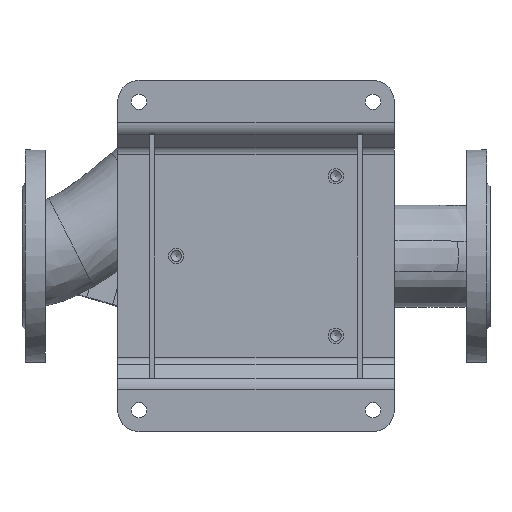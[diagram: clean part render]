
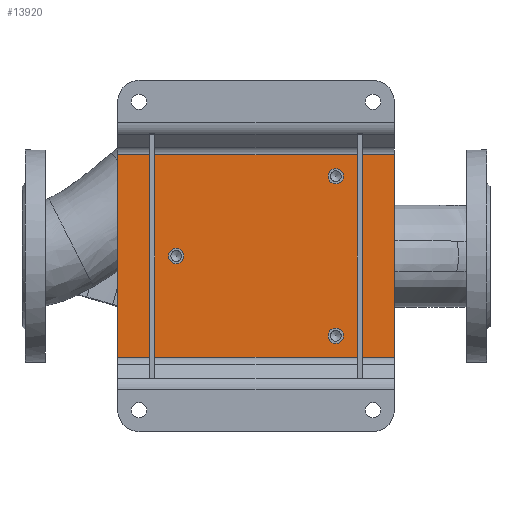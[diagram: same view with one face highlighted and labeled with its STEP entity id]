
A CAD part, top view. The second image highlights one B-rep face of the part: STEP entity #13920.
In plain terms, the highlighted planar face has unit normal (0, 0, 1) as drawn and (0, -1, 0) by its records, which use the part's own axes.
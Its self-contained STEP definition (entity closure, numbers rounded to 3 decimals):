
#533 = VECTOR ( 'NONE', #46732, 1000. ) ;
#747 = ORIENTED_EDGE ( 'NONE', *, *, #31177, .F. ) ;
#1305 = EDGE_CURVE ( 'NONE', #71816, #67862, #81312, .T. ) ;
#2043 = FACE_BOUND ( 'NONE', #24204, .T. ) ;
#2212 = EDGE_LOOP ( 'NONE', ( #41395 ) ) ;
#4946 = VERTEX_POINT ( 'NONE', #49571 ) ;
#8286 = FACE_BOUND ( 'NONE', #63512, .T. ) ;
#8395 = CARTESIAN_POINT ( 'NONE',  ( -75., -5., 75. ) ) ;
#10248 = EDGE_CURVE ( 'NONE', #12103, #12103, #61520, .T. ) ;
#11763 = CARTESIAN_POINT ( 'NONE',  ( -95., -5., -130. ) ) ;
#12103 = VERTEX_POINT ( 'NONE', #30489 ) ;
#13040 = VERTEX_POINT ( 'NONE', #19240 ) ;
#13560 = AXIS2_PLACEMENT_3D ( 'NONE', #52741, #78197, #16010 ) ;
#13920 = ADVANCED_FACE ( 'NONE', ( #52502, #2043, #8286, #15377 ), #34167, .T. ) ;
#15377 = FACE_OUTER_BOUND ( 'NONE', #67499, .T. ) ;
#16010 = DIRECTION ( 'NONE',  ( 0., 0., -1. ) ) ;
#19240 = CARTESIAN_POINT ( 'NONE',  ( -95., -5., 130. ) ) ;
#19986 = CARTESIAN_POINT ( 'NONE',  ( 95., -5., 130. ) ) ;
#21337 = DIRECTION ( 'NONE',  ( 0., 0., -1. ) ) ;
#21715 = ORIENTED_EDGE ( 'NONE', *, *, #56977, .F. ) ;
#24204 = EDGE_LOOP ( 'NONE', ( #34184 ) ) ;
#24412 = CARTESIAN_POINT ( 'NONE',  ( -95., -5., 130. ) ) ;
#26067 = CIRCLE ( 'NONE', #44765, 7.25 ) ;
#27506 = DIRECTION ( 'NONE',  ( 0., 0., -1. ) ) ;
#30186 = CARTESIAN_POINT ( 'NONE',  ( -95., -5., 130. ) ) ;
#30489 = CARTESIAN_POINT ( 'NONE',  ( 0., -5., -82.25 ) ) ;
#31177 = EDGE_CURVE ( 'NONE', #13040, #71816, #55623, .T. ) ;
#31369 = DIRECTION ( 'NONE',  ( -1., 0., 0. ) ) ;
#32468 = DIRECTION ( 'NONE',  ( 0., -1., 0. ) ) ;
#34167 = PLANE ( 'NONE',  #76090 ) ;
#34184 = ORIENTED_EDGE ( 'NONE', *, *, #10248, .F. ) ;
#34396 = EDGE_CURVE ( 'NONE', #38781, #38781, #26067, .T. ) ;
#38543 = ORIENTED_EDGE ( 'NONE', *, *, #67311, .F. ) ;
#38781 = VERTEX_POINT ( 'NONE', #52959 ) ;
#39165 = DIRECTION ( 'NONE',  ( 0., -1., 0. ) ) ;
#39502 = VECTOR ( 'NONE', #75869, 1000. ) ;
#39567 = CARTESIAN_POINT ( 'NONE',  ( 75., -5., 75. ) ) ;
#40578 = AXIS2_PLACEMENT_3D ( 'NONE', #8395, #76510, #21337 ) ;
#41395 = ORIENTED_EDGE ( 'NONE', *, *, #34396, .F. ) ;
#44183 = CARTESIAN_POINT ( 'NONE',  ( 95., -5., 130. ) ) ;
#44765 = AXIS2_PLACEMENT_3D ( 'NONE', #39567, #32468, #56677 ) ;
#46732 = DIRECTION ( 'NONE',  ( 1., 0., 0. ) ) ;
#47523 = CARTESIAN_POINT ( 'NONE',  ( 0., -5., 0. ) ) ;
#49571 = CARTESIAN_POINT ( 'NONE',  ( -75., -5., 67.75 ) ) ;
#49835 = DIRECTION ( 'NONE',  ( 0., 0., 1. ) ) ;
#52284 = CARTESIAN_POINT ( 'NONE',  ( 95., -5., -130. ) ) ;
#52334 = VERTEX_POINT ( 'NONE', #60411 ) ;
#52502 = FACE_BOUND ( 'NONE', #2212, .T. ) ;
#52741 = CARTESIAN_POINT ( 'NONE',  ( 0., -5., -75. ) ) ;
#52959 = CARTESIAN_POINT ( 'NONE',  ( 75., -5., 67.75 ) ) ;
#53572 = EDGE_CURVE ( 'NONE', #67862, #52334, #63048, .T. ) ;
#54092 = VECTOR ( 'NONE', #49835, 1000. ) ;
#55623 = LINE ( 'NONE', #30186, #533 ) ;
#56086 = LINE ( 'NONE', #24412, #54092 ) ;
#56677 = DIRECTION ( 'NONE',  ( 0., 0., -1. ) ) ;
#56977 = EDGE_CURVE ( 'NONE', #4946, #4946, #59201, .T. ) ;
#58988 = VECTOR ( 'NONE', #31369, 1000. ) ;
#59201 = CIRCLE ( 'NONE', #40578, 7.25 ) ;
#60411 = CARTESIAN_POINT ( 'NONE',  ( -95., -5., -130. ) ) ;
#61520 = CIRCLE ( 'NONE', #13560, 7.25 ) ;
#63005 = ORIENTED_EDGE ( 'NONE', *, *, #1305, .F. ) ;
#63048 = LINE ( 'NONE', #11763, #58988 ) ;
#63512 = EDGE_LOOP ( 'NONE', ( #21715 ) ) ;
#65933 = ORIENTED_EDGE ( 'NONE', *, *, #53572, .F. ) ;
#67311 = EDGE_CURVE ( 'NONE', #52334, #13040, #56086, .T. ) ;
#67499 = EDGE_LOOP ( 'NONE', ( #63005, #747, #38543, #65933 ) ) ;
#67862 = VERTEX_POINT ( 'NONE', #52284 ) ;
#71816 = VERTEX_POINT ( 'NONE', #19986 ) ;
#75869 = DIRECTION ( 'NONE',  ( 0., 0., -1. ) ) ;
#76090 = AXIS2_PLACEMENT_3D ( 'NONE', #47523, #39165, #27506 ) ;
#76510 = DIRECTION ( 'NONE',  ( 0., -1., 0. ) ) ;
#78197 = DIRECTION ( 'NONE',  ( 0., -1., 0. ) ) ;
#81312 = LINE ( 'NONE', #44183, #39502 ) ;
